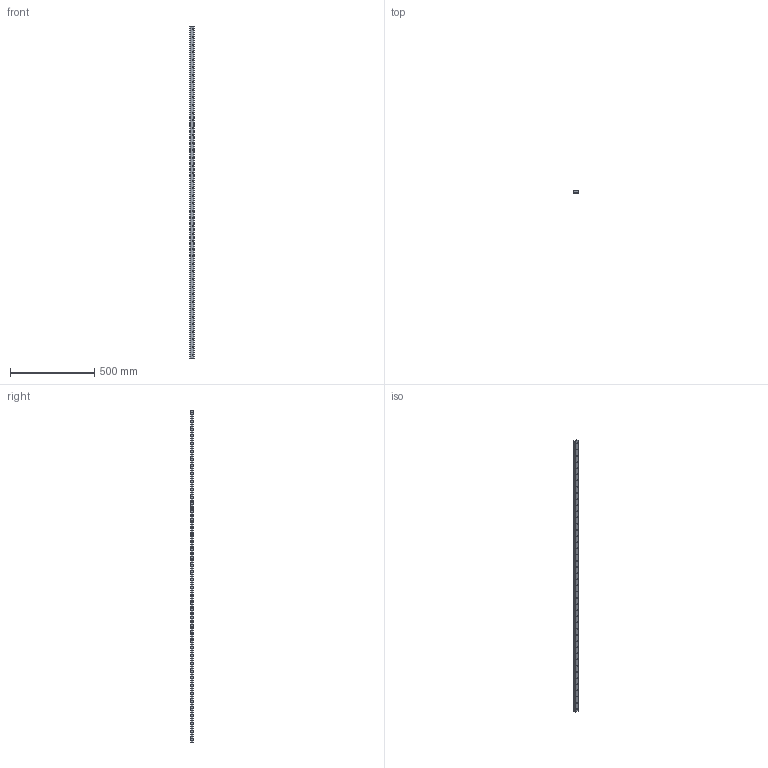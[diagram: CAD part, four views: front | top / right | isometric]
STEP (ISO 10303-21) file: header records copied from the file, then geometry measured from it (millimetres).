
FILE_DESCRIPTION(('STEP AP203'),'1');
FILE_NAME('track_ft2412l1976p2a.stp','2022-07-04T01:30:47',('TraceParts'),('TraceParts S.A.'),'Spatial InterOp 3D',' ',' ');
FILE_SCHEMA(('CONFIG_CONTROL_DESIGN'));
Length unit declared in the file: millimetre
Products named in the file (1): 1
Bounding box: 24.4 x 12 x 1976 mm (x, y, z)
Volume: 551953.2 mm3; surface area: 152814.8 mm2
Topology: 1 solids, 1 shells, 230 faces, 552 edges, 368 vertices
Faces by surface type: cylinder 176, plane 54
Entity records: 7108 total; most frequent: DIRECTION 1366, CARTESIAN_POINT 1151, ORIENTED_EDGE 1104, AXIS2_PLACEMENT_3D 583, EDGE_CURVE 552, VERTEX_POINT 368, EDGE_LOOP 362, CIRCLE 352
